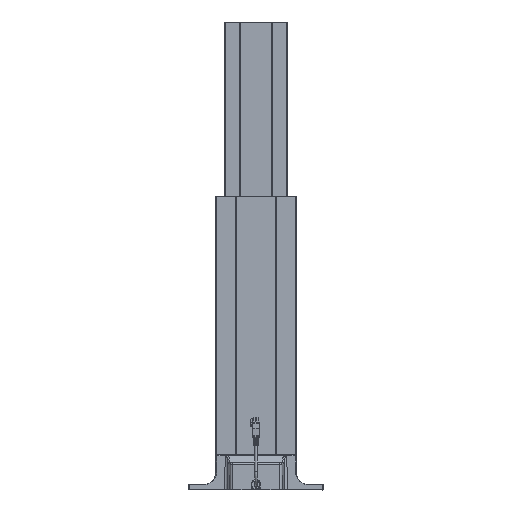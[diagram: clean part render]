
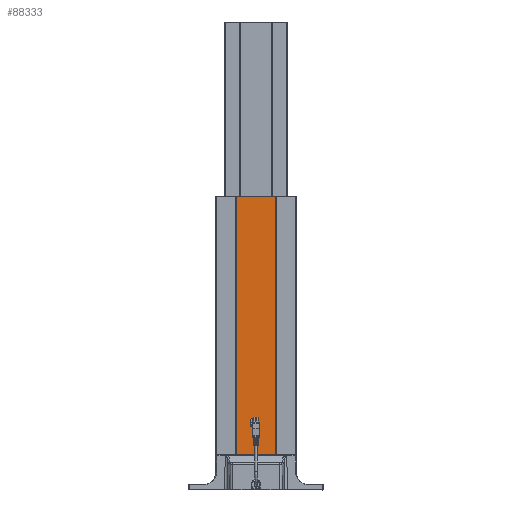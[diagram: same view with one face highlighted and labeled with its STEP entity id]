
A CAD part, top view. The second image highlights one B-rep face of the part: STEP entity #88333.
In plain terms, the highlighted planar face has unit normal (0, 0, 1) as drawn and (0, 1, 0) by its records, which use the part's own axes.
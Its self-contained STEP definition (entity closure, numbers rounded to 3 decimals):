
#34199=ORIENTED_EDGE('',*,*,#50216,.F.);
#34200=ORIENTED_EDGE('',*,*,#50215,.T.);
#34201=ORIENTED_EDGE('',*,*,#50217,.T.);
#34202=ORIENTED_EDGE('',*,*,#50218,.F.);
#50215=EDGE_CURVE('',#59027,#59028,#64199,.T.);
#50216=EDGE_CURVE('',#59027,#59029,#64200,.T.);
#50217=EDGE_CURVE('',#59028,#59030,#64201,.T.);
#50218=EDGE_CURVE('',#59029,#59030,#64202,.T.);
#59027=VERTEX_POINT('',#380806);
#59028=VERTEX_POINT('',#380808);
#59029=VERTEX_POINT('',#380812);
#59030=VERTEX_POINT('',#380814);
#64199=LINE('',#380809,#69143);
#64200=LINE('',#380811,#69144);
#64201=LINE('',#380813,#69145);
#64202=LINE('',#380815,#69146);
#69143=VECTOR('',#119148,1000.);
#69144=VECTOR('',#119151,1000.);
#69145=VECTOR('',#119152,1000.);
#69146=VECTOR('',#119153,1000.);
#75386=EDGE_LOOP('',(#34199,#34200,#34201,#34202));
#81322=FACE_BOUND('',#75386,.T.);
#83232=PLANE('',#100724);
#88333=ADVANCED_FACE('',(#81322),#83232,.F.);
#100724=AXIS2_PLACEMENT_3D('',#380810,#119149,#119150);
#119148=DIRECTION('',(0.,0.,1.));
#119149=DIRECTION('',(0.,-1.,0.));
#119150=DIRECTION('',(0.,0.,-1.));
#119151=DIRECTION('',(1.,0.,0.));
#119152=DIRECTION('',(1.,0.,0.));
#119153=DIRECTION('',(0.,0.,1.));
#380806=CARTESIAN_POINT('',(-37.,29.5,-480.));
#380808=CARTESIAN_POINT('',(-37.,29.5,0.));
#380809=CARTESIAN_POINT('',(-37.,29.5,-580.));
#380810=CARTESIAN_POINT('',(-37.,29.5,-580.));
#380811=CARTESIAN_POINT('',(-37.,29.5,-480.));
#380812=CARTESIAN_POINT('',(37.,29.5,-480.));
#380813=CARTESIAN_POINT('',(-37.,29.5,0.));
#380814=CARTESIAN_POINT('',(37.,29.5,0.));
#380815=CARTESIAN_POINT('',(37.,29.5,-580.));
